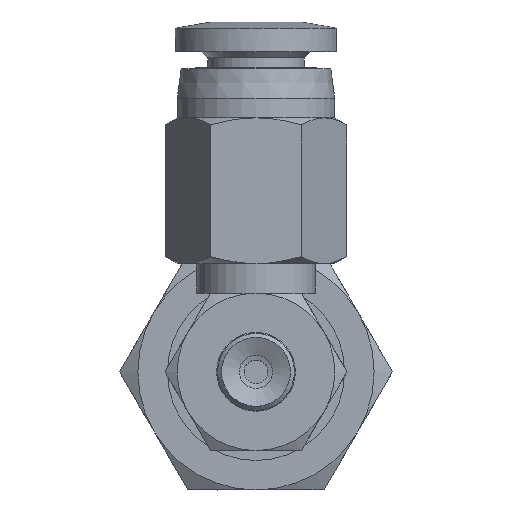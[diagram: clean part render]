
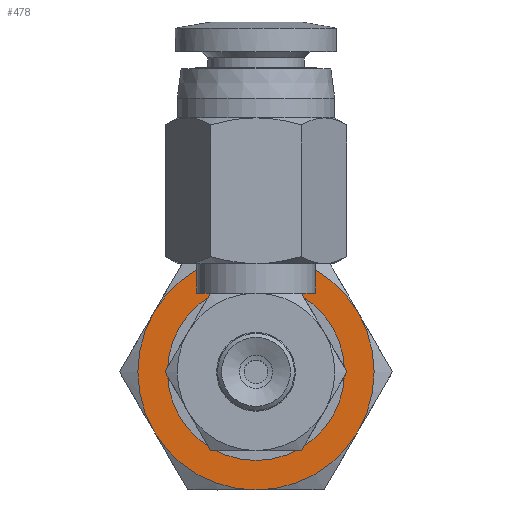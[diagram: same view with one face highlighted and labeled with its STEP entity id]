
A CAD part, front view. The second image highlights one B-rep face of the part: STEP entity #478.
In plain terms, the highlighted planar face has unit normal (0, -1, 0) as drawn and (-1, 0, 0) by its records, which use the part's own axes.
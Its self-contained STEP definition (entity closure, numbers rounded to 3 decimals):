
#478=ADVANCED_FACE('',(#672,#673),#674,.F.);
#672=FACE_BOUND('',#1075,.T.);
#673=FACE_OUTER_BOUND('',#1076,.T.);
#674=PLANE('',#1077);
#1075=EDGE_LOOP('',(#1822));
#1076=EDGE_LOOP('',(#1823,#1824,#1825,#1826,#1827,#1828));
#1077=AXIS2_PLACEMENT_3D('',#1829,#1830,#1831);
#1822=ORIENTED_EDGE('',*,*,#2794,.T.);
#1823=ORIENTED_EDGE('',*,*,#2772,.F.);
#1824=ORIENTED_EDGE('',*,*,#2784,.F.);
#1825=ORIENTED_EDGE('',*,*,#2781,.F.);
#1826=ORIENTED_EDGE('',*,*,#2795,.F.);
#1827=ORIENTED_EDGE('',*,*,#2796,.F.);
#1828=ORIENTED_EDGE('',*,*,#2763,.F.);
#1829=CARTESIAN_POINT('',(0.,0.0,0.0));
#1830=DIRECTION('',(1.0,0.0,0.0));
#1831=DIRECTION('',(0.0,1.0,0.0));
#2763=EDGE_CURVE('',#3075,#3076,#3077,.T.);
#2772=EDGE_CURVE('',#3090,#3075,#3093,.T.);
#2781=EDGE_CURVE('',#3107,#3108,#3109,.T.);
#2784=EDGE_CURVE('',#3108,#3090,#3113,.T.);
#2794=EDGE_CURVE('',#3129,#3129,#3130,.T.);
#2795=EDGE_CURVE('',#3131,#3107,#3132,.T.);
#2796=EDGE_CURVE('',#3076,#3131,#3133,.T.);
#3075=VERTEX_POINT('',#3595);
#3076=VERTEX_POINT('',#3596);
#3077=CIRCLE('',#3597,6.0);
#3090=VERTEX_POINT('',#3652);
#3093=CIRCLE('',#3675,6.0);
#3107=VERTEX_POINT('',#3740);
#3108=VERTEX_POINT('',#3741);
#3109=CIRCLE('',#3742,6.0);
#3113=CIRCLE('',#3766,6.0);
#3129=VERTEX_POINT('',#3832);
#3130=CIRCLE('',#3833,4.0);
#3131=VERTEX_POINT('',#3834);
#3132=CIRCLE('',#3835,6.0);
#3133=CIRCLE('',#3836,6.0);
#3595=CARTESIAN_POINT('',(0.,5.196,3.0));
#3596=CARTESIAN_POINT('',(0.,0.0,6.0));
#3597=AXIS2_PLACEMENT_3D('',#4770,#4771,#4772);
#3652=CARTESIAN_POINT('',(0.,5.196,-3.0));
#3675=AXIS2_PLACEMENT_3D('',#4775,#4776,#4777);
#3740=CARTESIAN_POINT('',(0.,-5.196,-3.0));
#3741=CARTESIAN_POINT('',(0.,0.0,-6.0));
#3742=AXIS2_PLACEMENT_3D('',#4785,#4786,#4787);
#3766=AXIS2_PLACEMENT_3D('',#4788,#4789,#4790);
#3832=CARTESIAN_POINT('',(0.,0.0,-4.0));
#3833=AXIS2_PLACEMENT_3D('',#4803,#4804,#4805);
#3834=CARTESIAN_POINT('',(0.,-5.196,3.0));
#3835=AXIS2_PLACEMENT_3D('',#4806,#4807,#4808);
#3836=AXIS2_PLACEMENT_3D('',#4809,#4810,#4811);
#4770=CARTESIAN_POINT('',(0.,0.0,0.0));
#4771=DIRECTION('',(1.0,0.0,0.0));
#4772=DIRECTION('',(0.0,0.0,-1.0));
#4775=CARTESIAN_POINT('',(0.,0.0,0.0));
#4776=DIRECTION('',(1.0,0.0,0.0));
#4777=DIRECTION('',(0.0,0.0,-1.0));
#4785=CARTESIAN_POINT('',(0.,0.0,0.0));
#4786=DIRECTION('',(1.0,0.0,0.0));
#4787=DIRECTION('',(0.0,0.0,-1.0));
#4788=CARTESIAN_POINT('',(0.,0.0,0.0));
#4789=DIRECTION('',(1.0,0.0,0.0));
#4790=DIRECTION('',(0.0,0.0,-1.0));
#4803=CARTESIAN_POINT('',(0.,0.0,0.0));
#4804=DIRECTION('',(1.0,0.0,0.0));
#4805=DIRECTION('',(0.0,0.0,-1.0));
#4806=CARTESIAN_POINT('',(0.,0.0,0.0));
#4807=DIRECTION('',(1.0,0.0,0.0));
#4808=DIRECTION('',(0.0,0.0,-1.0));
#4809=CARTESIAN_POINT('',(0.,0.0,0.0));
#4810=DIRECTION('',(1.0,0.0,0.0));
#4811=DIRECTION('',(0.0,0.0,-1.0));
